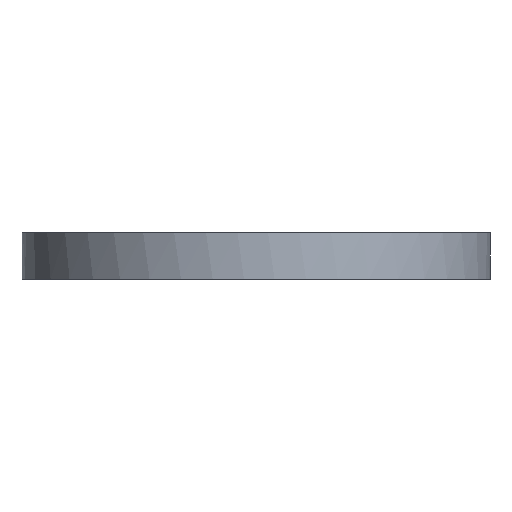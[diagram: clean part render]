
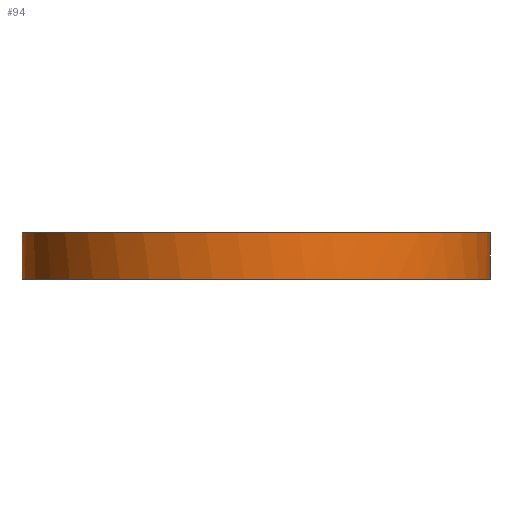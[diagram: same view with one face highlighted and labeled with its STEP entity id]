
A CAD part, left-side view. The second image highlights one B-rep face of the part: STEP entity #94.
In plain terms, the highlighted free-form (B-spline) face has degree [1, 2] with [2, 9] control points.
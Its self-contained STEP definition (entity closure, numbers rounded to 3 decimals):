
#94=ADVANCED_FACE('',(#100),#273,.T.);
#100=FACE_OUTER_BOUND('',#107,.T.);
#107=EDGE_LOOP('',(#121,#122,#123,#124));
#121=ORIENTED_EDGE('',*,*,#217,.T.);
#122=ORIENTED_EDGE('',*,*,#218,.T.);
#123=ORIENTED_EDGE('',*,*,#219,.T.);
#124=ORIENTED_EDGE('',*,*,#220,.T.);
#139=(
BOUNDED_CURVE()
B_SPLINE_CURVE(2,(#489,#490,#491,#492,#493),.UNSPECIFIED.,.F.,.F.)
B_SPLINE_CURVE_WITH_KNOTS((3,2,3),(1.,2.571,4.142),
 .UNSPECIFIED.)
CURVE()
GEOMETRIC_REPRESENTATION_ITEM()
RATIONAL_B_SPLINE_CURVE((1.,0.707,1.,0.707,1.))
REPRESENTATION_ITEM('')
);
#140=(
BOUNDED_CURVE()
B_SPLINE_CURVE(2,(#500,#501,#502,#503,#504),.UNSPECIFIED.,.F.,.F.)
B_SPLINE_CURVE_WITH_KNOTS((3,2,3),(5.142,6.712,8.283),
 .UNSPECIFIED.)
CURVE()
GEOMETRIC_REPRESENTATION_ITEM()
RATIONAL_B_SPLINE_CURVE((1.,0.707,1.,0.707,1.))
REPRESENTATION_ITEM('')
);
#157=PCURVE('',#273,#177);
#158=PCURVE('',#273,#178);
#159=PCURVE('',#273,#179);
#160=PCURVE('',#273,#180);
#177=DEFINITIONAL_REPRESENTATION('',(#240),#593);
#178=DEFINITIONAL_REPRESENTATION('',(#241),#593);
#179=DEFINITIONAL_REPRESENTATION('',(#243),#593);
#180=DEFINITIONAL_REPRESENTATION('',(#244),#593);
#197=SURFACE_CURVE('',#239,(#157),.PCURVE_S1.);
#198=SURFACE_CURVE('',#139,(#158),.PCURVE_S1.);
#199=SURFACE_CURVE('',#242,(#159),.PCURVE_S1.);
#200=SURFACE_CURVE('',#140,(#160),.PCURVE_S1.);
#217=EDGE_CURVE('',#261,#262,#197,.T.);
#218=EDGE_CURVE('',#262,#263,#198,.T.);
#219=EDGE_CURVE('',#263,#264,#199,.T.);
#220=EDGE_CURVE('',#264,#261,#200,.T.);
#239=B_SPLINE_CURVE_WITH_KNOTS('',1,(#485,#486),.UNSPECIFIED.,.F.,.F.,(2,
2),(0.,1.),.UNSPECIFIED.);
#240=B_SPLINE_CURVE_WITH_KNOTS('',1,(#487,#488),.UNSPECIFIED.,.F.,.F.,(2,
2),(0.,1.),.UNSPECIFIED.);
#241=B_SPLINE_CURVE_WITH_KNOTS('',1,(#494,#495),.UNSPECIFIED.,.F.,.F.,(2,
2),(1.,4.142),.UNSPECIFIED.);
#242=B_SPLINE_CURVE_WITH_KNOTS('',1,(#496,#497),.UNSPECIFIED.,.F.,.F.,(2,
2),(4.142,5.142),.UNSPECIFIED.);
#243=B_SPLINE_CURVE_WITH_KNOTS('',1,(#498,#499),.UNSPECIFIED.,.F.,.F.,(2,
2),(4.142,5.142),.UNSPECIFIED.);
#244=B_SPLINE_CURVE_WITH_KNOTS('',1,(#505,#506),.UNSPECIFIED.,.F.,.F.,(2,
2),(5.142,8.283),.UNSPECIFIED.);
#261=VERTEX_POINT('',#481);
#262=VERTEX_POINT('',#482);
#263=VERTEX_POINT('',#483);
#264=VERTEX_POINT('',#484);
#273=(
BOUNDED_SURFACE()
B_SPLINE_SURFACE(1,2,((#463,#464,#465,#466,#467,#468,#469,#470,#471),(#472,
#473,#474,#475,#476,#477,#478,#479,#480)),.UNSPECIFIED.,.F.,.F.,.F.)
B_SPLINE_SURFACE_WITH_KNOTS((2,2),(3,2,2,2,3),(0.,1.),(0.,1.571,
3.142,4.712,6.283),.UNSPECIFIED.)
GEOMETRIC_REPRESENTATION_ITEM()
RATIONAL_B_SPLINE_SURFACE(((1.,0.707,1.,0.707,1.,
0.707,1.,0.707,1.),(1.,0.707,1.,0.707,
1.,0.707,1.,0.707,1.)))
REPRESENTATION_ITEM('')
SURFACE()
);
#463=CARTESIAN_POINT('',(-1.,5.,0.));
#464=CARTESIAN_POINT('',(-1.,5.,-5.));
#465=CARTESIAN_POINT('',(-1.,0.,-5.));
#466=CARTESIAN_POINT('',(-1.,-5.,-5.));
#467=CARTESIAN_POINT('',(-1.,-5.,0.));
#468=CARTESIAN_POINT('',(-1.,-5.,5.));
#469=CARTESIAN_POINT('',(-1.,0.,5.));
#470=CARTESIAN_POINT('',(-1.,5.,5.));
#471=CARTESIAN_POINT('',(-1.,5.,0.));
#472=CARTESIAN_POINT('',(0.,5.,0.));
#473=CARTESIAN_POINT('',(0.,5.,-5.));
#474=CARTESIAN_POINT('',(0.,0.,-5.));
#475=CARTESIAN_POINT('',(0.,-5.,-5.));
#476=CARTESIAN_POINT('',(0.,-5.,0.));
#477=CARTESIAN_POINT('',(0.,-5.,5.));
#478=CARTESIAN_POINT('',(0.,0.,5.));
#479=CARTESIAN_POINT('',(0.,5.,5.));
#480=CARTESIAN_POINT('',(0.,5.,0.));
#481=CARTESIAN_POINT('',(0.,5.,0.));
#482=CARTESIAN_POINT('',(-1.,5.,0.));
#483=CARTESIAN_POINT('',(-1.,-5.,0.));
#484=CARTESIAN_POINT('',(0.,-5.,0.));
#485=CARTESIAN_POINT('',(0.,5.,0.));
#486=CARTESIAN_POINT('',(-1.,5.,0.));
#487=CARTESIAN_POINT('',(1.,6.283));
#488=CARTESIAN_POINT('',(0.,6.283));
#489=CARTESIAN_POINT('',(-1.,5.,0.));
#490=CARTESIAN_POINT('',(-1.,5.,5.));
#491=CARTESIAN_POINT('',(-1.,0.,5.));
#492=CARTESIAN_POINT('',(-1.,-5.,5.));
#493=CARTESIAN_POINT('',(-1.,-5.,0.));
#494=CARTESIAN_POINT('',(0.,6.283));
#495=CARTESIAN_POINT('',(0.,3.142));
#496=CARTESIAN_POINT('',(-1.,-5.,0.));
#497=CARTESIAN_POINT('',(0.,-5.,0.));
#498=CARTESIAN_POINT('',(0.,3.142));
#499=CARTESIAN_POINT('',(1.,3.142));
#500=CARTESIAN_POINT('',(0.,-5.,0.));
#501=CARTESIAN_POINT('',(0.,-5.,5.));
#502=CARTESIAN_POINT('',(0.,0.,5.));
#503=CARTESIAN_POINT('',(0.,5.,5.));
#504=CARTESIAN_POINT('',(0.,5.,0.));
#505=CARTESIAN_POINT('',(1.,3.142));
#506=CARTESIAN_POINT('',(1.,6.283));
#593=(
GEOMETRIC_REPRESENTATION_CONTEXT(2)
PARAMETRIC_REPRESENTATION_CONTEXT()
REPRESENTATION_CONTEXT('pspace','')
);
